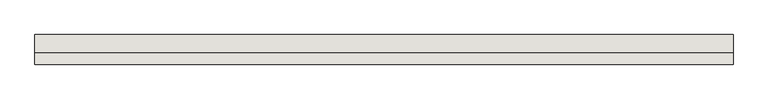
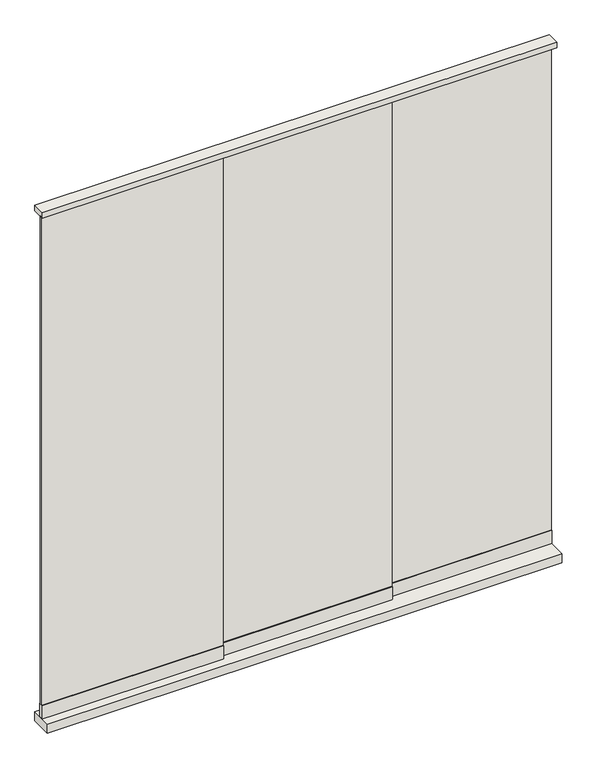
"""IFC4 building model written with IfcOpenShell, lengths in millimetres: wall geometry, Renson_Algarve_Glass_Sliding_Panel : Renson_Algarve_Glass_Sliding_Panel."""

from ifc_helpers import new_model, si_unit, frame, origin, origin_with_axes, place, context, project, spatial, polyline, outline, extrude, source, transform, mapped, element, save


def wall_f5962ba5(model_context):
    return source(origin(), model_context, "Body", "SweptSolid", [
        extrude(outline(polyline([(750.0, 0.0), (750.0, -80.0), (-1140.0, -80.0), (-1140.0, 0.0), (750.0, 0.0)])), origin_with_axes(), (0.0, 0.0, 1.0), 35.0),
        extrude(outline(polyline([(750.0, -3.0), (750.0, -13.0), (120.0, -13.0), (120.0, -3.0), (750.0, -3.0)])), frame((0.0, 0.0, 86.0), z_axis=(0.0, 0.0, 1.0), x_axis=(1.0, 0.0, 0.0)), (0.0, 0.0, 1.0), 1894.0),
        extrude(outline(polyline([(155.0, -19.0), (155.0, -29.0), (-510.0, -29.0), (-510.0, -19.0), (155.0, -19.0)])), frame((0.0, 0.0, 86.0), z_axis=(0.0, 0.0, 1.0), x_axis=(1.0, 0.0, 0.0)), (0.0, 0.0, 1.0), 1894.0),
        extrude(outline(polyline([(-475.0, -35.0), (-475.0, -45.0), (-1140.0, -45.0), (-1140.0, -35.0), (-475.0, -35.0)])), frame((0.0, 0.0, 86.0), z_axis=(0.0, 0.0, 1.0), x_axis=(1.0, 0.0, 0.0)), (0.0, 0.0, 1.0), 1894.0),
        extrude(outline(polyline([(750.0, 0.0), (750.0, -48.0), (-1140.0, -48.0), (-1140.0, 0.0), (750.0, 0.0)])), frame((0.0, 0.0, 1980.0), z_axis=(0.0, 0.0, 1.0), x_axis=(1.0, 0.0, 0.0)), (0.0, 0.0, 1.0), 20.0),
        extrude(outline(polyline([(750.0, 0.0), (750.0, -16.0), (120.0, -16.0), (120.0, 0.0), (750.0, 0.0)])), frame((0.0, 0.0, 35.0), z_axis=(0.0, 0.0, 1.0), x_axis=(1.0, 0.0, 0.0)), (0.0, 0.0, 1.0), 51.0),
        extrude(outline(polyline([(155.0, -16.0), (155.0, -32.0), (-510.0, -32.0), (-510.0, -16.0), (155.0, -16.0)])), frame((0.0, 0.0, 35.0), z_axis=(0.0, 0.0, 1.0), x_axis=(1.0, 0.0, 0.0)), (0.0, 0.0, 1.0), 51.0),
        extrude(outline(polyline([(-475.0, -32.0), (-475.0, -48.0), (-1140.0, -48.0), (-1140.0, -32.0), (-475.0, -32.0)])), frame((0.0, 0.0, 35.0), z_axis=(0.0, 0.0, 1.0), x_axis=(1.0, 0.0, 0.0)), (0.0, 0.0, 1.0), 51.0),
    ])


if __name__ == "__main__":
    model = new_model("IFC4")
    model_context = context("Model", 3, world=origin())
    ifc_project = project(units=[si_unit("LENGTHUNIT", "METRE", prefix="MILLI")], contexts=[model_context])
    site = spatial("IfcSite", under=ifc_project)
    building = spatial("IfcBuilding", under=site)
    placement = place(None, origin())
    wall_shape = wall_f5962ba5(model_context)
    element("IfcWall", 1, ObjectType="Renson_Algarve_Glass_Sliding_Panel : Renson_Algarve_Glass_Sliding_Panel", at=placement, inside=building, context=model_context, shape_type="MappedRepresentation", body=[
        mapped(wall_shape, transform((0.0, 0.0, 0.0), x_axis=(1.0, 0.0, 0.0), y_axis=(0.0, 1.0, 0.0), z_axis=(0.0, 0.0, 1.0))),
    ])
    save(model, "model.ifc")
